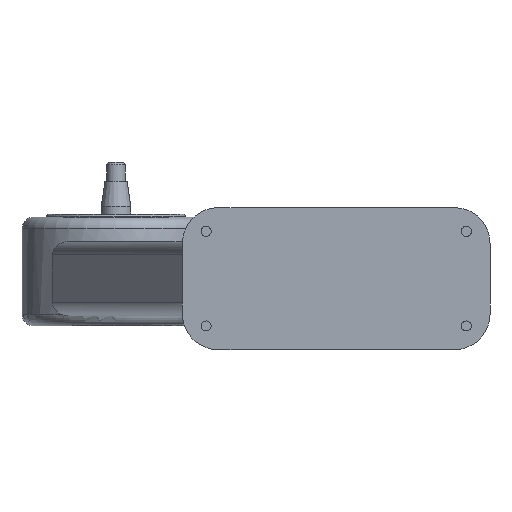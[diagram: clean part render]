
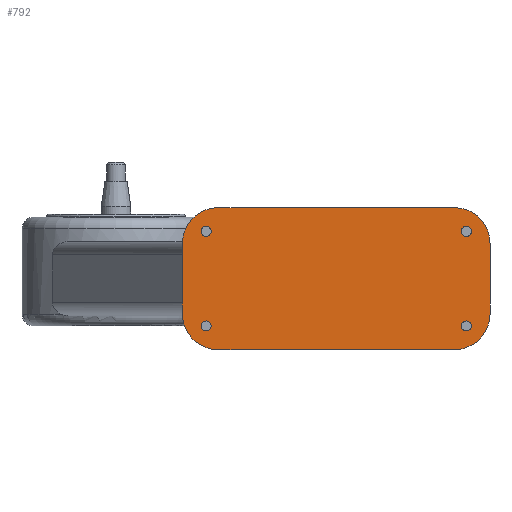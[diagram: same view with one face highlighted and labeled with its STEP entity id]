
A CAD part, front view. The second image highlights one B-rep face of the part: STEP entity #792.
In plain terms, the highlighted planar face has unit normal (0, -1, 0).
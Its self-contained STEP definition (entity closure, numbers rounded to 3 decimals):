
#4 = ORIENTED_EDGE ( 'NONE', *, *, #1792, .F. ) ;
#18 = CARTESIAN_POINT ( 'NONE',  ( 105.949, 0., -40. ) ) ;
#23 = LINE ( 'NONE', #1275, #1500 ) ;
#28 = ORIENTED_EDGE ( 'NONE', *, *, #913, .T. ) ;
#40 = CARTESIAN_POINT ( 'NONE',  ( 105.949, 0., 40. ) ) ;
#55 = VERTEX_POINT ( 'NONE', #1762 ) ;
#60 = CIRCLE ( 'NONE', #2267, 30. ) ;
#89 = EDGE_CURVE ( 'NONE', #273, #832, #795, .T. ) ;
#119 = CIRCLE ( 'NONE', #2054, 4.25 ) ;
#134 = VERTEX_POINT ( 'NONE', #2076 ) ;
#141 = DIRECTION ( 'NONE',  ( -1., 0., 0. ) ) ;
#158 = FACE_OUTER_BOUND ( 'NONE', #360, .T. ) ;
#171 = CARTESIAN_POINT ( 'NONE',  ( 105.949, 0., -40. ) ) ;
#183 = AXIS2_PLACEMENT_3D ( 'NONE', #1633, #519, #1783 ) ;
#185 = VERTEX_POINT ( 'NONE', #2242 ) ;
#207 = CARTESIAN_POINT ( 'NONE',  ( -114.051, 0., -40. ) ) ;
#219 = DIRECTION ( 'NONE',  ( 1., 0., 0. ) ) ;
#229 = ORIENTED_EDGE ( 'NONE', *, *, #2093, .T. ) ;
#232 = DIRECTION ( 'NONE',  ( 0., -1., 0. ) ) ;
#233 = CARTESIAN_POINT ( 'NONE',  ( 110.199, 0., -40. ) ) ;
#236 = DIRECTION ( 'NONE',  ( 1., 0., 0. ) ) ;
#261 = ORIENTED_EDGE ( 'NONE', *, *, #409, .F. ) ;
#273 = VERTEX_POINT ( 'NONE', #2288 ) ;
#274 = CIRCLE ( 'NONE', #2017, 4.25 ) ;
#315 = CARTESIAN_POINT ( 'NONE',  ( -134.051, 0., 30. ) ) ;
#328 = DIRECTION ( 'NONE',  ( 0., -1., 0. ) ) ;
#359 = VERTEX_POINT ( 'NONE', #1979 ) ;
#360 = EDGE_LOOP ( 'NONE', ( #2058, #982, #4, #1986, #1183, #229, #28, #1543 ) ) ;
#375 = DIRECTION ( 'NONE',  ( 1., 0., 0. ) ) ;
#376 = VECTOR ( 'NONE', #582, 1000. ) ;
#399 = CIRCLE ( 'NONE', #1254, 30. ) ;
#409 = EDGE_CURVE ( 'NONE', #185, #571, #893, .T. ) ;
#412 = DIRECTION ( 'NONE',  ( 1., 0., 0. ) ) ;
#415 = CARTESIAN_POINT ( 'NONE',  ( -114.051, 0., -40. ) ) ;
#448 = VERTEX_POINT ( 'NONE', #1547 ) ;
#451 = DIRECTION ( 'NONE',  ( 1., 0., 0. ) ) ;
#463 = VERTEX_POINT ( 'NONE', #640 ) ;
#487 = EDGE_LOOP ( 'NONE', ( #1594, #537 ) ) ;
#500 = VERTEX_POINT ( 'NONE', #233 ) ;
#519 = DIRECTION ( 'NONE',  ( 0., -1., 0. ) ) ;
#525 = CARTESIAN_POINT ( 'NONE',  ( -104.051, 0., -60. ) ) ;
#537 = ORIENTED_EDGE ( 'NONE', *, *, #1023, .F. ) ;
#571 = VERTEX_POINT ( 'NONE', #665 ) ;
#580 = VERTEX_POINT ( 'NONE', #2198 ) ;
#582 = DIRECTION ( 'NONE',  ( 0., 0., -1. ) ) ;
#583 = CARTESIAN_POINT ( 'NONE',  ( -104.051, 0., -30. ) ) ;
#620 = DIRECTION ( 'NONE',  ( 1., 0., 0. ) ) ;
#631 = VERTEX_POINT ( 'NONE', #1905 ) ;
#640 = CARTESIAN_POINT ( 'NONE',  ( 125.949, 0., 30. ) ) ;
#657 = AXIS2_PLACEMENT_3D ( 'NONE', #40, #1386, #236 ) ;
#659 = VECTOR ( 'NONE', #833, 1000. ) ;
#665 = CARTESIAN_POINT ( 'NONE',  ( -118.301, 0., -40. ) ) ;
#692 = FACE_BOUND ( 'NONE', #1191, .T. ) ;
#710 = CARTESIAN_POINT ( 'NONE',  ( -134.051, 0., -30. ) ) ;
#722 = AXIS2_PLACEMENT_3D ( 'NONE', #1464, #328, #1643 ) ;
#750 = FACE_BOUND ( 'NONE', #989, .T. ) ;
#775 = DIRECTION ( 'NONE',  ( -1., 0., 0. ) ) ;
#780 = ORIENTED_EDGE ( 'NONE', *, *, #1248, .F. ) ;
#781 = VERTEX_POINT ( 'NONE', #525 ) ;
#792 = ADVANCED_FACE ( 'NONE', ( #1665, #2062, #692, #750, #158 ), #1929, .F. ) ;
#795 = CIRCLE ( 'NONE', #1373, 4.25 ) ;
#815 = VERTEX_POINT ( 'NONE', #1802 ) ;
#832 = VERTEX_POINT ( 'NONE', #1123 ) ;
#833 = DIRECTION ( 'NONE',  ( 1., 0., 0. ) ) ;
#878 = DIRECTION ( 'NONE',  ( 0., -1., 0. ) ) ;
#881 = DIRECTION ( 'NONE',  ( 0., -1., 0. ) ) ;
#889 = CIRCLE ( 'NONE', #1854, 4.25 ) ;
#893 = CIRCLE ( 'NONE', #2143, 4.25 ) ;
#913 = EDGE_CURVE ( 'NONE', #2258, #1775, #1384, .T. ) ;
#975 = ORIENTED_EDGE ( 'NONE', *, *, #89, .F. ) ;
#982 = ORIENTED_EDGE ( 'NONE', *, *, #2234, .T. ) ;
#989 = EDGE_LOOP ( 'NONE', ( #780, #1385 ) ) ;
#1003 = CIRCLE ( 'NONE', #1677, 4.25 ) ;
#1004 = EDGE_CURVE ( 'NONE', #571, #185, #889, .T. ) ;
#1009 = DIRECTION ( 'NONE',  ( 0., -1., 0. ) ) ;
#1023 = EDGE_CURVE ( 'NONE', #134, #500, #119, .T. ) ;
#1066 = ORIENTED_EDGE ( 'NONE', *, *, #1004, .F. ) ;
#1082 = EDGE_CURVE ( 'NONE', #463, #359, #60, .T. ) ;
#1092 = DIRECTION ( 'NONE',  ( 0., 0., -1. ) ) ;
#1107 = CARTESIAN_POINT ( 'NONE',  ( -134.051, 0., 60. ) ) ;
#1114 = CIRCLE ( 'NONE', #183, 30. ) ;
#1123 = CARTESIAN_POINT ( 'NONE',  ( 101.699, 0., 40. ) ) ;
#1146 = LINE ( 'NONE', #2178, #659 ) ;
#1183 = ORIENTED_EDGE ( 'NONE', *, *, #2141, .F. ) ;
#1191 = EDGE_LOOP ( 'NONE', ( #975, #2127 ) ) ;
#1217 = EDGE_LOOP ( 'NONE', ( #261, #1066 ) ) ;
#1248 = EDGE_CURVE ( 'NONE', #55, #631, #274, .T. ) ;
#1254 = AXIS2_PLACEMENT_3D ( 'NONE', #2021, #1009, #2174 ) ;
#1258 = CIRCLE ( 'NONE', #657, 4.25 ) ;
#1275 = CARTESIAN_POINT ( 'NONE',  ( 125.949, 0., 60. ) ) ;
#1284 = VECTOR ( 'NONE', #451, 1000. ) ;
#1287 = DIRECTION ( 'NONE',  ( 0., 1., 0. ) ) ;
#1365 = DIRECTION ( 'NONE',  ( 0., -1., 0. ) ) ;
#1373 = AXIS2_PLACEMENT_3D ( 'NONE', #1917, #878, #2071 ) ;
#1380 = CARTESIAN_POINT ( 'NONE',  ( 95.949, 0., 30. ) ) ;
#1384 = LINE ( 'NONE', #1828, #376 ) ;
#1385 = ORIENTED_EDGE ( 'NONE', *, *, #2263, .F. ) ;
#1386 = DIRECTION ( 'NONE',  ( 0., -1., 0. ) ) ;
#1424 = EDGE_CURVE ( 'NONE', #500, #134, #1003, .T. ) ;
#1429 = AXIS2_PLACEMENT_3D ( 'NONE', #583, #1830, #775 ) ;
#1464 = CARTESIAN_POINT ( 'NONE',  ( -114.051, 0., 40. ) ) ;
#1500 = VECTOR ( 'NONE', #1092, 1000. ) ;
#1511 = DIRECTION ( 'NONE',  ( 0., -1., 0. ) ) ;
#1543 = ORIENTED_EDGE ( 'NONE', *, *, #1949, .T. ) ;
#1545 = DIRECTION ( 'NONE',  ( 0., -1., 0. ) ) ;
#1547 = CARTESIAN_POINT ( 'NONE',  ( -104.051, 0., 60. ) ) ;
#1570 = DIRECTION ( 'NONE',  ( -1., 0., 0. ) ) ;
#1576 = CARTESIAN_POINT ( 'NONE',  ( -134.051, 0., 60. ) ) ;
#1579 = EDGE_CURVE ( 'NONE', #832, #273, #1258, .T. ) ;
#1594 = ORIENTED_EDGE ( 'NONE', *, *, #1424, .F. ) ;
#1595 = EDGE_CURVE ( 'NONE', #781, #815, #1146, .T. ) ;
#1633 = CARTESIAN_POINT ( 'NONE',  ( 95.949, 0., -30. ) ) ;
#1643 = DIRECTION ( 'NONE',  ( 1., 0., 0. ) ) ;
#1665 = FACE_BOUND ( 'NONE', #1217, .T. ) ;
#1677 = AXIS2_PLACEMENT_3D ( 'NONE', #171, #1511, #375 ) ;
#1710 = DIRECTION ( 'NONE',  ( 0., -1., 0. ) ) ;
#1762 = CARTESIAN_POINT ( 'NONE',  ( -109.801, 0., 40. ) ) ;
#1775 = VERTEX_POINT ( 'NONE', #710 ) ;
#1783 = DIRECTION ( 'NONE',  ( -1., 0., 0. ) ) ;
#1792 = EDGE_CURVE ( 'NONE', #463, #580, #23, .T. ) ;
#1802 = CARTESIAN_POINT ( 'NONE',  ( 95.949, 0., -60. ) ) ;
#1828 = CARTESIAN_POINT ( 'NONE',  ( -134.051, 0., 60. ) ) ;
#1830 = DIRECTION ( 'NONE',  ( 0., -1., 0. ) ) ;
#1854 = AXIS2_PLACEMENT_3D ( 'NONE', #207, #1545, #412 ) ;
#1905 = CARTESIAN_POINT ( 'NONE',  ( -118.301, 0., 40. ) ) ;
#1908 = CIRCLE ( 'NONE', #722, 4.25 ) ;
#1917 = CARTESIAN_POINT ( 'NONE',  ( 105.949, 0., 40. ) ) ;
#1920 = CARTESIAN_POINT ( 'NONE',  ( -114.051, 0., 40. ) ) ;
#1929 = PLANE ( 'NONE',  #2096 ) ;
#1949 = EDGE_CURVE ( 'NONE', #1775, #781, #2032, .T. ) ;
#1979 = CARTESIAN_POINT ( 'NONE',  ( 95.949, 0., 60. ) ) ;
#1986 = ORIENTED_EDGE ( 'NONE', *, *, #1082, .T. ) ;
#2017 = AXIS2_PLACEMENT_3D ( 'NONE', #1920, #881, #2072 ) ;
#2021 = CARTESIAN_POINT ( 'NONE',  ( -104.051, 0., 30. ) ) ;
#2032 = CIRCLE ( 'NONE', #1429, 30. ) ;
#2054 = AXIS2_PLACEMENT_3D ( 'NONE', #18, #1365, #219 ) ;
#2058 = ORIENTED_EDGE ( 'NONE', *, *, #1595, .T. ) ;
#2062 = FACE_BOUND ( 'NONE', #487, .T. ) ;
#2071 = DIRECTION ( 'NONE',  ( 1., 0., 0. ) ) ;
#2072 = DIRECTION ( 'NONE',  ( 1., 0., 0. ) ) ;
#2076 = CARTESIAN_POINT ( 'NONE',  ( 101.699, 0., -40. ) ) ;
#2093 = EDGE_CURVE ( 'NONE', #448, #2258, #399, .T. ) ;
#2096 = AXIS2_PLACEMENT_3D ( 'NONE', #1107, #1287, #141 ) ;
#2127 = ORIENTED_EDGE ( 'NONE', *, *, #1579, .F. ) ;
#2141 = EDGE_CURVE ( 'NONE', #448, #359, #2149, .T. ) ;
#2143 = AXIS2_PLACEMENT_3D ( 'NONE', #415, #1710, #620 ) ;
#2149 = LINE ( 'NONE', #1576, #1284 ) ;
#2174 = DIRECTION ( 'NONE',  ( -1., 0., 0. ) ) ;
#2178 = CARTESIAN_POINT ( 'NONE',  ( -134.051, 0., -60. ) ) ;
#2198 = CARTESIAN_POINT ( 'NONE',  ( 125.949, 0., -30. ) ) ;
#2234 = EDGE_CURVE ( 'NONE', #815, #580, #1114, .T. ) ;
#2242 = CARTESIAN_POINT ( 'NONE',  ( -109.801, 0., -40. ) ) ;
#2258 = VERTEX_POINT ( 'NONE', #315 ) ;
#2263 = EDGE_CURVE ( 'NONE', #631, #55, #1908, .T. ) ;
#2267 = AXIS2_PLACEMENT_3D ( 'NONE', #1380, #232, #1570 ) ;
#2288 = CARTESIAN_POINT ( 'NONE',  ( 110.199, 0., 40. ) ) ;
